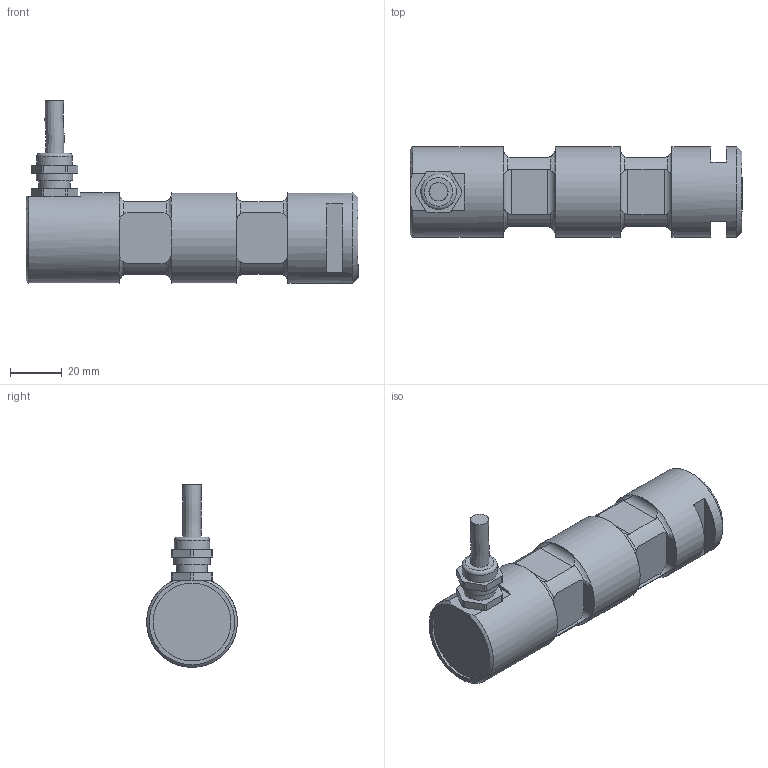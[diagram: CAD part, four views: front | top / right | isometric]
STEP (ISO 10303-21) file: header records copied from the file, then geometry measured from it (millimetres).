
FILE_DESCRIPTION(/* description */ ('Alibre Inc.'),/* implementation_level */ '2;1');
FILE_NAME(/* name */ 'export0',/* time_stamp */ '2012-05-07T09:52:03+02:00',/* author */ (''),/* organization */ (''),/* preprocessor_version */ 'ST-DEVELOPER v10',/* originating_system */ 'Alibre',/* authorisation */ '');
FILE_SCHEMA (('CONFIG_CONTROL_DESIGN'));
Length unit declared in the file: centimetre
Products named in the file (6): ID_1; ID_2; ID_3
Bounding box: 128 x 35 x 70.49 mm (x, y, z)
Volume: 110647.3 mm3; surface area: 20175.1 mm2
Topology: 4 solids, 4 shells, 143 faces, 342 edges, 215 vertices
Faces by surface type: plane 66, cylinder 55, torus 18, cone 3, bspline 1
Full cylindrical faces by diameter (mm): 7 x1, 8 x1, 10.917 x1, 12 x2, 13.7 x1, 14 x1, 30 x1, 35 x3
Entity records: 8395 total; most frequent: CARTESIAN_POINT 4990, ORIENTED_EDGE 648, DIRECTION 440, EDGE_CURVE 324, VERTEX_POINT 213, AXIS2_PLACEMENT_3D 183, FACE_BOUND 169, EDGE_LOOP 168
